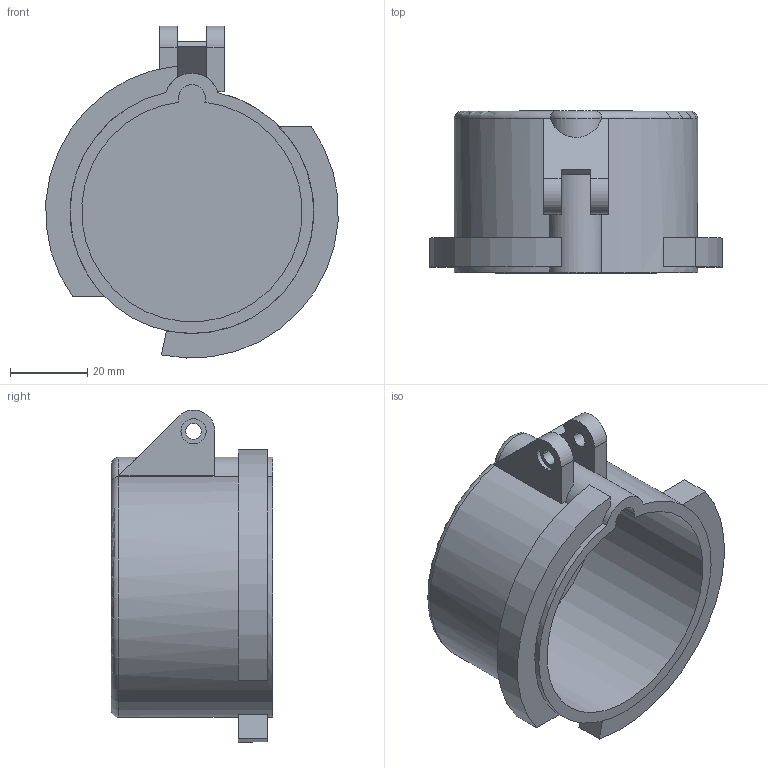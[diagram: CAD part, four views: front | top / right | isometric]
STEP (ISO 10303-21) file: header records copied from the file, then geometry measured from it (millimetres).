
FILE_DESCRIPTION((''),'2;1');
FILE_NAME('22263_GROB','2018-11-19T',('weltickej'),('MENNEKES'),'PRO/ENGINEER BY PARAMETRIC TECHNOLOGY CORPORATION, 2015440','PRO/ENGINEER BY PARAMETRIC TECHNOLOGY CORPORATION, 2015440','');
FILE_SCHEMA(('AUTOMOTIVE_DESIGN { 1 0 10303 214 1 1 1 1 }'));
Length unit declared in the file: millimetre
Products named in the file (1): 22263_GROB
Bounding box: 75.56 x 41.8 x 85.84 mm (x, y, z)
Volume: 41186.8 mm3; surface area: 25550.8 mm2
Topology: 1 solids, 1 shells, 43 faces, 105 edges, 68 vertices
Faces by surface type: plane 24, cylinder 17, torus 2
Entity records: 2160 total; most frequent: COLOUR_RGB 299, CARTESIAN_POINT 260, DIRECTION 231, ORIENTED_EDGE 210, PRESENTATION_STYLE_ASSIGNMENT 106, STYLED_ITEM 106, CURVE_STYLE 105, EDGE_CURVE 105
